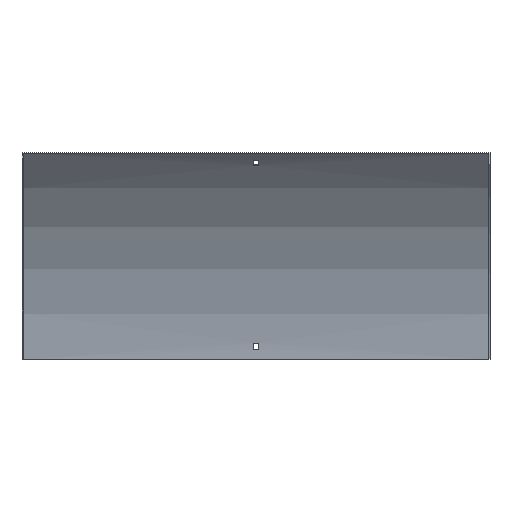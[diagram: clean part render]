
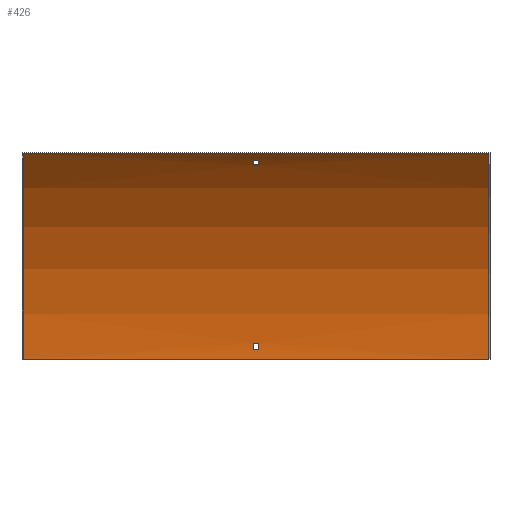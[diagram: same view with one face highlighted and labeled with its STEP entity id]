
A CAD part, front view. The second image highlights one B-rep face of the part: STEP entity #426.
In plain terms, the highlighted cylindrical face has radius 375 mm (diameter 750 mm), a partial arc.
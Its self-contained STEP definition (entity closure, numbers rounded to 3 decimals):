
#4 = DIRECTION ( 'NONE',  ( -1., 0., 0. ) ) ;
#6 = DIRECTION ( 'NONE',  ( 0., 0., -1. ) ) ;
#11 = VECTOR ( 'NONE', #403, 1000. ) ;
#20 = AXIS2_PLACEMENT_3D ( 'NONE', #230, #366, #456 ) ;
#27 = EDGE_LOOP ( 'NONE', ( #353, #352, #262, #210 ) ) ;
#37 = LINE ( 'NONE', #509, #351 ) ;
#38 = CARTESIAN_POINT ( 'NONE',  ( 301.5, -102.985, 256.544 ) ) ;
#49 = EDGE_CURVE ( 'NONE', #511, #375, #516, .T. ) ;
#51 = DIRECTION ( 'NONE',  ( 0., 0., 1. ) ) ;
#57 = LINE ( 'NONE', #377, #428 ) ;
#58 = CARTESIAN_POINT ( 'NONE',  ( 300., -111.335, 265.165 ) ) ;
#60 = CARTESIAN_POINT ( 'NONE',  ( 301.5, -1.692, 12. ) ) ;
#62 = DIRECTION ( 'NONE',  ( -1., 0., 0. ) ) ;
#63 = EDGE_CURVE ( 'NONE', #295, #300, #478, .T. ) ;
#67 = DIRECTION ( 'NONE',  ( 0., 0., 1. ) ) ;
#92 = EDGE_CURVE ( 'NONE', #321, #418, #303, .T. ) ;
#94 = FACE_BOUND ( 'NONE', #156, .T. ) ;
#95 = DIRECTION ( 'NONE',  ( -1., 0., 0. ) ) ;
#96 = DIRECTION ( 'NONE',  ( 0., 0., -1. ) ) ;
#110 = CARTESIAN_POINT ( 'NONE',  ( -3.25, -376.5, 0. ) ) ;
#111 = ORIENTED_EDGE ( 'NONE', *, *, #325, .T. ) ;
#113 = ORIENTED_EDGE ( 'NONE', *, *, #290, .F. ) ;
#130 = VERTEX_POINT ( 'NONE', #416 ) ;
#132 = DIRECTION ( 'NONE',  ( -1., 0., 0. ) ) ;
#142 = EDGE_CURVE ( 'NONE', #270, #300, #37, .T. ) ;
#149 = VECTOR ( 'NONE', #132, 1000. ) ;
#155 = EDGE_CURVE ( 'NONE', #218, #511, #185, .T. ) ;
#156 = EDGE_LOOP ( 'NONE', ( #340, #254, #405, #113 ) ) ;
#158 = CIRCLE ( 'NONE', #311, 375. ) ;
#159 = EDGE_LOOP ( 'NONE', ( #528, #359, #607, #111 ) ) ;
#161 = VERTEX_POINT ( 'NONE', #463 ) ;
#170 = CYLINDRICAL_SURFACE ( 'NONE', #522, 375. ) ;
#185 = LINE ( 'NONE', #501, #537 ) ;
#188 = AXIS2_PLACEMENT_3D ( 'NONE', #110, #299, #67 ) ;
#193 = VERTEX_POINT ( 'NONE', #369 ) ;
#197 = CARTESIAN_POINT ( 'NONE',  ( -300., -1.5, 0. ) ) ;
#204 = CIRCLE ( 'NONE', #20, 375. ) ;
#206 = EDGE_CURVE ( 'NONE', #589, #295, #412, .T. ) ;
#210 = ORIENTED_EDGE ( 'NONE', *, *, #142, .T. ) ;
#218 = VERTEX_POINT ( 'NONE', #523 ) ;
#230 = CARTESIAN_POINT ( 'NONE',  ( 3.25, -376.5, 0. ) ) ;
#237 = EDGE_CURVE ( 'NONE', #193, #321, #57, .T. ) ;
#248 = CARTESIAN_POINT ( 'NONE',  ( -300., -111.335, 265.165 ) ) ;
#254 = ORIENTED_EDGE ( 'NONE', *, *, #155, .F. ) ;
#262 = ORIENTED_EDGE ( 'NONE', *, *, #400, .T. ) ;
#268 = CARTESIAN_POINT ( 'NONE',  ( -3.25, -1.692, 12. ) ) ;
#270 = VERTEX_POINT ( 'NONE', #58 ) ;
#283 = FACE_OUTER_BOUND ( 'NONE', #27, .T. ) ;
#290 = EDGE_CURVE ( 'NONE', #375, #161, #292, .T. ) ;
#292 = LINE ( 'NONE', #60, #454 ) ;
#293 = CARTESIAN_POINT ( 'NONE',  ( 3.25, -376.5, 0. ) ) ;
#295 = VERTEX_POINT ( 'NONE', #197 ) ;
#299 = DIRECTION ( 'NONE',  ( -1., 0., 0. ) ) ;
#300 = VERTEX_POINT ( 'NONE', #248 ) ;
#303 = CIRCLE ( 'NONE', #462, 375. ) ;
#311 = AXIS2_PLACEMENT_3D ( 'NONE', #343, #452, #96 ) ;
#320 = FACE_BOUND ( 'NONE', #159, .T. ) ;
#321 = VERTEX_POINT ( 'NONE', #527 ) ;
#324 = CARTESIAN_POINT ( 'NONE',  ( -3.25, -102.985, 256.544 ) ) ;
#325 = EDGE_CURVE ( 'NONE', #130, #193, #376, .T. ) ;
#340 = ORIENTED_EDGE ( 'NONE', *, *, #49, .F. ) ;
#343 = CARTESIAN_POINT ( 'NONE',  ( 300., -376.5, 0. ) ) ;
#345 = DIRECTION ( 'NONE',  ( 0., 0., -1. ) ) ;
#351 = VECTOR ( 'NONE', #402, 1000. ) ;
#352 = ORIENTED_EDGE ( 'NONE', *, *, #206, .F. ) ;
#353 = ORIENTED_EDGE ( 'NONE', *, *, #63, .F. ) ;
#359 = ORIENTED_EDGE ( 'NONE', *, *, #92, .T. ) ;
#366 = DIRECTION ( 'NONE',  ( 1., 0., 0. ) ) ;
#369 = CARTESIAN_POINT ( 'NONE',  ( 3.25, -96.902, 249.9 ) ) ;
#375 = VERTEX_POINT ( 'NONE', #268 ) ;
#376 = CIRCLE ( 'NONE', #453, 375. ) ;
#377 = CARTESIAN_POINT ( 'NONE',  ( 301.5, -96.902, 249.9 ) ) ;
#384 = DIRECTION ( 'NONE',  ( 0., 0., 1. ) ) ;
#390 = CARTESIAN_POINT ( 'NONE',  ( -300., -376.5, 0. ) ) ;
#400 = EDGE_CURVE ( 'NONE', #589, #270, #158, .T. ) ;
#402 = DIRECTION ( 'NONE',  ( -1., 0., 0. ) ) ;
#403 = DIRECTION ( 'NONE',  ( 1., 0., 0. ) ) ;
#405 = ORIENTED_EDGE ( 'NONE', *, *, #506, .F. ) ;
#411 = EDGE_CURVE ( 'NONE', #418, #130, #421, .T. ) ;
#412 = LINE ( 'NONE', #568, #149 ) ;
#416 = CARTESIAN_POINT ( 'NONE',  ( 3.25, -102.985, 256.544 ) ) ;
#418 = VERTEX_POINT ( 'NONE', #324 ) ;
#421 = LINE ( 'NONE', #38, #11 ) ;
#422 = CARTESIAN_POINT ( 'NONE',  ( 300., -1.5, 0. ) ) ;
#426 = ADVANCED_FACE ( 'NONE', ( #94, #283, #320 ), #170, .F. ) ;
#428 = VECTOR ( 'NONE', #62, 1000. ) ;
#431 = DIRECTION ( 'NONE',  ( -1., 0., 0. ) ) ;
#452 = DIRECTION ( 'NONE',  ( 1., 0., 0. ) ) ;
#453 = AXIS2_PLACEMENT_3D ( 'NONE', #293, #431, #384 ) ;
#454 = VECTOR ( 'NONE', #576, 1000. ) ;
#455 = CARTESIAN_POINT ( 'NONE',  ( -3.25, -376.5, 0. ) ) ;
#456 = DIRECTION ( 'NONE',  ( 0., 0., -1. ) ) ;
#460 = DIRECTION ( 'NONE',  ( 1., 0., 0. ) ) ;
#462 = AXIS2_PLACEMENT_3D ( 'NONE', #455, #460, #6 ) ;
#463 = CARTESIAN_POINT ( 'NONE',  ( 3.25, -1.692, 12. ) ) ;
#478 = CIRCLE ( 'NONE', #583, 375. ) ;
#501 = CARTESIAN_POINT ( 'NONE',  ( 301.5, -2.088, 21. ) ) ;
#506 = EDGE_CURVE ( 'NONE', #161, #218, #204, .T. ) ;
#509 = CARTESIAN_POINT ( 'NONE',  ( 300., -111.335, 265.165 ) ) ;
#511 = VERTEX_POINT ( 'NONE', #561 ) ;
#515 = CARTESIAN_POINT ( 'NONE',  ( 301.5, -376.5, 0. ) ) ;
#516 = CIRCLE ( 'NONE', #188, 375. ) ;
#522 = AXIS2_PLACEMENT_3D ( 'NONE', #515, #4, #51 ) ;
#523 = CARTESIAN_POINT ( 'NONE',  ( 3.25, -2.088, 21. ) ) ;
#527 = CARTESIAN_POINT ( 'NONE',  ( -3.25, -96.902, 249.9 ) ) ;
#528 = ORIENTED_EDGE ( 'NONE', *, *, #237, .T. ) ;
#537 = VECTOR ( 'NONE', #95, 1000. ) ;
#561 = CARTESIAN_POINT ( 'NONE',  ( -3.25, -2.088, 21. ) ) ;
#568 = CARTESIAN_POINT ( 'NONE',  ( 300., -1.5, 0. ) ) ;
#576 = DIRECTION ( 'NONE',  ( 1., 0., 0. ) ) ;
#583 = AXIS2_PLACEMENT_3D ( 'NONE', #390, #585, #345 ) ;
#585 = DIRECTION ( 'NONE',  ( 1., 0., 0. ) ) ;
#589 = VERTEX_POINT ( 'NONE', #422 ) ;
#607 = ORIENTED_EDGE ( 'NONE', *, *, #411, .T. ) ;
